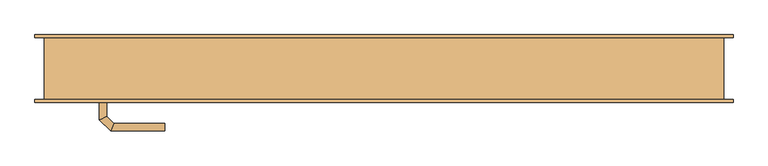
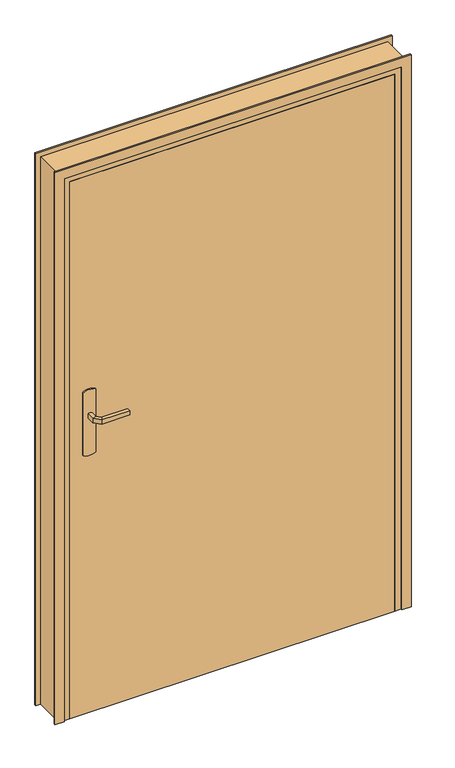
"""IFC4 building model written with IfcOpenShell, lengths in millimetres: door geometry, @_Int. Simple : @_PP (1.03m x 1.8m)."""

from ifc_helpers import new_model, si_unit, point, frame, frame_2d, origin, origin_with_axes, place, context, project, spatial, polyline, circle_curve, ellipse_curve, trimmed, segment, composite_curve, outline, extrude, faceted_brep, source, transform, mapped, element, save
from ifc_brep_helpers import plane_surface, cylinder_surface, advanced_brep


def door_373ab6a3(model_context):
    return source(origin(), model_context, "Body", "SolidModel", [
        extrude(outline(composite_curve([segment(trimmed(circle_curve(frame_2d((904.6410162, -490.0)), 40.0), [point((870.0, -510.0))], [point((870.0, -470.0))], False, "CARTESIAN"), True, "CONTINUOUS"), segment(polyline([(870.0, -470.0), (1080.0, -470.0)]), True, "CONTINUOUS"), segment(trimmed(circle_curve(frame_2d((1045.3589838, -490.0)), 40.0), [point((1080.0, -470.0))], [point((1080.0, -510.0))], False, "CARTESIAN"), True, "CONTINUOUS"), segment(polyline([(1080.0, -510.0), (870.0, -510.0)]), True, "CONTINUOUS")], self_intersect=False)), frame((0.0, -55.0, 0.0), z_axis=(0.0, 1.0, 0.0), x_axis=(0.0, 0.0, 1.0)), (0.0, 0.0, 1.0), 5.0),
        extrude(outline(composite_curve([segment(trimmed(circle_curve(frame_2d((1045.3589838, -490.0)), 40.0), [point((1080.0, -470.0))], [point((1080.0, -510.0))], False, "CARTESIAN"), True, "CONTINUOUS"), segment(polyline([(1080.0, -510.0), (870.0, -510.0)]), True, "CONTINUOUS"), segment(trimmed(circle_curve(frame_2d((904.6410162, -490.0)), 40.0), [point((870.0, -510.0))], [point((870.0, -470.0))], False, "CARTESIAN"), True, "CONTINUOUS"), segment(polyline([(870.0, -470.0), (1080.0, -470.0)]), True, "CONTINUOUS")], self_intersect=False)), frame((0.0, -10.0, 0.0), z_axis=(0.0, 1.0, 0.0), x_axis=(0.0, 0.0, 1.0)), (0.0, 0.0, 1.0), 5.0),
        advanced_brep(
        [(-496.0, -55.0, 1007.0), (-484.0, -55.0, 1007.0), (-484.0, -55.0, 993.0), (-496.0, -55.0, 993.0), (-496.0, -82.6509507, 1007.0), (-484.0, -77.680388, 1007.0), (-484.0, -77.680388, 993.0), (-496.0, -82.6509507, 993.0), (-477.62279, -101.0281607, 1007.0), (-472.6522273, -89.0281607, 1007.0), (-472.6522273, -89.0281607, 993.0), (-477.62279, -101.0281607, 993.0), (-389.9813594, -101.0281607, 1007.0), (-389.9813594, -101.0281607, 993.0), (-389.9813594, -89.0281607, 993.0), (-389.9813594, -89.0281607, 1007.0)],
        [
            (0, 1, circle_curve(frame((-490.0, -55.0, 986.9542278), z_axis=(0.0, 1.0, 0.0), x_axis=(1.0, 0.0, 0.0)), 20.9244589)),
            (1, 2),
            (2, 3, circle_curve(frame((-490.0, -55.0, 1013.0457722), z_axis=(0.0, 1.0, 0.0), x_axis=(1.0, 0.0, 0.0)), 20.9244589)),
            (3, 0),
            (0, 4),
            (4, 5, ellipse_curve(frame((-490.0, -80.1656693, 986.9542278), z_axis=(-0.3826834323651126, 0.9238795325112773, 0.0), x_axis=(0.9238795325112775, 0.38268343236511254, 0.0)), 22.6484711, 20.9244589)),
            (5, 1),
            (5, 6),
            (6, 2),
            (6, 7, ellipse_curve(frame((-490.0, -80.1656693, 1013.0457722), z_axis=(-0.3826834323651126, 0.9238795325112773, 0.0), x_axis=(0.9238795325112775, 0.38268343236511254, 0.0)), 22.6484711, 20.9244589)),
            (7, 3),
            (7, 4),
            (4, 8),
            (8, 9, ellipse_curve(frame((-475.1375086, -95.0281607, 986.9542278), z_axis=(-0.9238795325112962, 0.38268343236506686, 0.0), x_axis=(0.3826834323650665, 0.9238795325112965, 0.0)), 22.6484711, 20.9244589)),
            (9, 5),
            (9, 10),
            (10, 6),
            (10, 11, ellipse_curve(frame((-475.1375086, -95.0281607, 1013.0457722), z_axis=(-0.9238795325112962, 0.38268343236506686, 0.0), x_axis=(0.3826834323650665, 0.9238795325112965, 0.0)), 22.6484711, 20.9244589)),
            (11, 7),
            (11, 8),
            (12, 13),
            (13, 14, circle_curve(frame((-389.9813594, -95.0281607, 1013.0457722), z_axis=(1.0, 0.0, 0.0), x_axis=(0.0, 1.0, 0.0)), 20.9244589)),
            (14, 15),
            (15, 12, circle_curve(frame((-389.9813594, -95.0281607, 986.9542278), z_axis=(1.0, 0.0, 0.0), x_axis=(0.0, 1.0, 0.0)), 20.9244589)),
            (8, 12),
            (15, 9),
            (14, 10),
            (13, 11),
        ],
        [
            plane_surface(frame((-499.2195445, -55.0, 1000.0), z_axis=(0.0, 1.0, 0.0), x_axis=(0.0, 0.0, -1.0))),
            cylinder_surface(frame((-490.0, -55.0, 986.9542278), z_axis=(0.0, 1.0, 0.0), x_axis=(1.0, 0.0, 0.0)), 20.9244589),
            plane_surface(frame((-484.0, -55.0, 1007.0), z_axis=(1.0, 0.0, 0.0), x_axis=(0.0, -1.0, 0.0))),
            cylinder_surface(frame((-490.0, -55.0, 1013.0457722), z_axis=(0.0, 1.0, 0.0), x_axis=(1.0, 0.0, 0.0)), 20.9244589),
            plane_surface(frame((-496.0, -55.0, 993.0), z_axis=(-1.0, 0.0, 0.0), x_axis=(0.0, -1.0, 0.0))),
            cylinder_surface(frame((-490.0, -80.1656693, 986.9542278), z_axis=(-0.7071067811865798, 0.7071067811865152, 0.0), x_axis=(0.7071067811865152, 0.7071067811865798, 0.0)), 20.9244589),
            plane_surface(frame((-484.0, -77.680388, 1007.0), z_axis=(0.7071067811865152, 0.7071067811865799, 0.0), x_axis=(0.7071067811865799, -0.7071067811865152, 0.0))),
            cylinder_surface(frame((-490.0, -80.1656693, 1013.0457722), z_axis=(-0.7071067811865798, 0.7071067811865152, 0.0), x_axis=(0.7071067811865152, 0.7071067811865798, 0.0)), 20.9244589),
            plane_surface(frame((-496.0, -82.6509507, 993.0), z_axis=(-0.7071067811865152, -0.7071067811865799, 0.0), x_axis=(0.7071067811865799, -0.7071067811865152, 0.0))),
            plane_surface(frame((-389.9813594, -95.0281607, 990.7804555), z_axis=(1.0, 0.0, 0.0), x_axis=(0.0, 1.0, 0.0))),
            cylinder_surface(frame((-475.1375086, -95.0281607, 986.9542278), z_axis=(-1.0, 0.0, 0.0), x_axis=(0.0, 1.0, 0.0)), 20.9244589),
            plane_surface(frame((-472.6522273, -89.0281607, 1007.0), z_axis=(0.0, 1.0, 0.0), x_axis=(1.0, 0.0, 0.0))),
            cylinder_surface(frame((-475.1375086, -95.0281607, 1013.0457722), z_axis=(-1.0, 0.0, 0.0), x_axis=(0.0, 1.0, 0.0)), 20.9244589),
            plane_surface(frame((-477.62279, -101.0281607, 993.0), z_axis=(0.0, -1.0, 0.0), x_axis=(1.0, 0.0, 0.0))),
        ],
        [
            (0, [[1, 2, 3, 4]]),
            (1, [[-1, 5, 6, 7]]),
            (2, [[-2, -7, 8, 9]]),
            (3, [[-3, -9, 10, 11]]),
            (4, [[-4, -11, 12, -5]]),
            (5, [[-6, 13, 14, 15]]),
            (6, [[-8, -15, 16, 17]]),
            (7, [[-10, -17, 18, 19]]),
            (8, [[-12, -19, 20, -13]]),
            (9, [[21, 22, 23, 24]]),
            (10, [[-14, 25, -24, 26]]),
            (11, [[-16, -26, -23, 27]]),
            (12, [[-18, -27, -22, 28]]),
            (13, [[-20, -28, -21, -25]]),
        ],
    ),
        advanced_brep(
        [(-484.0, -5.0, 993.0), (-484.0, -5.0, 1007.0), (-496.0, -5.0, 1007.0), (-496.0, -5.0, 993.0), (-484.0, 17.4852045, 993.0), (-484.0, 17.4852045, 1007.0), (-496.0, 22.4557673, 1007.0), (-496.0, 22.4557673, 993.0), (-472.5147186, 28.9704859, 993.0), (-472.5147186, 28.9704859, 1007.0), (-477.4852814, 40.9704859, 1007.0), (-477.4852814, 40.9704859, 993.0), (-389.9542163, 28.9704859, 993.0), (-389.9542163, 40.9704859, 993.0), (-389.9542163, 40.9704859, 1007.0), (-389.9542163, 28.9704859, 1007.0)],
        [
            (0, 1),
            (1, 2, circle_curve(frame((-490.0, -5.0, 986.9542278), z_axis=(0.0, -1.0, 0.0), x_axis=(-1.0, 0.0, 0.0)), 20.9244589)),
            (2, 3),
            (3, 0, circle_curve(frame((-490.0, -5.0, 1013.0457722), z_axis=(0.0, -1.0, 0.0), x_axis=(-1.0, 0.0, 0.0)), 20.9244589)),
            (0, 4),
            (4, 5),
            (5, 1),
            (5, 6, ellipse_curve(frame((-490.0, 19.9704859, 986.9542278), z_axis=(-0.3826834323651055, -0.9238795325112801, 0.0), x_axis=(0.9238795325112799, -0.3826834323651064, 0.0)), 22.6484711, 20.9244589)),
            (6, 2),
            (6, 7),
            (7, 3),
            (7, 4, ellipse_curve(frame((-490.0, 19.9704859, 1013.0457722), z_axis=(-0.3826834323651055, -0.9238795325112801, 0.0), x_axis=(0.9238795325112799, -0.3826834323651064, 0.0)), 22.6484711, 20.9244589)),
            (4, 8),
            (8, 9),
            (9, 5),
            (9, 10, ellipse_curve(frame((-475.0, 34.9704859, 986.9542278), z_axis=(-0.9238795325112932, -0.382683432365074, 0.0), x_axis=(0.3826834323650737, -0.9238795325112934, 0.0)), 22.6484711, 20.9244589)),
            (10, 6),
            (10, 11),
            (11, 7),
            (11, 8, ellipse_curve(frame((-475.0, 34.9704859, 1013.0457722), z_axis=(-0.9238795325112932, -0.382683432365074, 0.0), x_axis=(0.3826834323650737, -0.9238795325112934, 0.0)), 22.6484711, 20.9244589)),
            (12, 13, circle_curve(frame((-389.9542163, 34.9704859, 1013.0457722), z_axis=(1.0, 0.0, 0.0), x_axis=(0.0, 1.0, 0.0)), 20.9244589)),
            (13, 14),
            (14, 15, circle_curve(frame((-389.9542163, 34.9704859, 986.9542278), z_axis=(1.0, 0.0, 0.0), x_axis=(0.0, 1.0, 0.0)), 20.9244589)),
            (15, 12),
            (8, 12),
            (15, 9),
            (14, 10),
            (13, 11),
        ],
        [
            plane_surface(frame((-499.2195445, -5.0, 1000.0), z_axis=(0.0, -1.0, 0.0), x_axis=(0.0, 0.0, 1.0))),
            plane_surface(frame((-484.0, -5.0, 993.0), z_axis=(1.0, 0.0, 0.0), x_axis=(0.0, 1.0, 0.0))),
            cylinder_surface(frame((-490.0, -5.0, 986.9542278), z_axis=(0.0, -1.0, 0.0), x_axis=(-1.0, 0.0, 0.0)), 20.9244589),
            plane_surface(frame((-496.0, -5.0, 1007.0), z_axis=(-1.0, 0.0, 0.0), x_axis=(0.0, 1.0, 0.0))),
            cylinder_surface(frame((-490.0, -5.0, 1013.0457722), z_axis=(0.0, -1.0, 0.0), x_axis=(-1.0, 0.0, 0.0)), 20.9244589),
            plane_surface(frame((-484.0, 17.4852045, 993.0), z_axis=(0.7071067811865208, -0.7071067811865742, 0.0), x_axis=(0.7071067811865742, 0.7071067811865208, 0.0))),
            cylinder_surface(frame((-490.0, 19.9704859, 986.9542278), z_axis=(-0.7071067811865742, -0.7071067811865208, 0.0), x_axis=(-0.7071067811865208, 0.7071067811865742, 0.0)), 20.9244589),
            plane_surface(frame((-496.0, 22.4557673, 1007.0), z_axis=(-0.7071067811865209, 0.7071067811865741, 0.0), x_axis=(0.7071067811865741, 0.7071067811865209, 0.0))),
            cylinder_surface(frame((-490.0, 19.9704859, 1013.0457722), z_axis=(-0.7071067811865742, -0.7071067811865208, 0.0), x_axis=(-0.7071067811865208, 0.7071067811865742, 0.0)), 20.9244589),
            plane_surface(frame((-389.9542163, 34.9704859, 990.7804555), z_axis=(1.0, 0.0, 0.0), x_axis=(0.0, 1.0, 0.0))),
            plane_surface(frame((-472.5147186, 28.9704859, 993.0), z_axis=(0.0, -1.0, 0.0), x_axis=(1.0, 0.0, 0.0))),
            cylinder_surface(frame((-475.0, 34.9704859, 986.9542278), z_axis=(-1.0, 0.0, 0.0), x_axis=(0.0, 1.0, 0.0)), 20.9244589),
            plane_surface(frame((-477.4852814, 40.9704859, 1007.0), z_axis=(0.0, 1.0, 0.0), x_axis=(1.0, 0.0, 0.0))),
            cylinder_surface(frame((-475.0, 34.9704859, 1013.0457722), z_axis=(-1.0, 0.0, 0.0), x_axis=(0.0, 1.0, 0.0)), 20.9244589),
        ],
        [
            (0, [[1, 2, 3, 4]]),
            (1, [[-1, 5, 6, 7]]),
            (2, [[-2, -7, 8, 9]]),
            (3, [[-3, -9, 10, 11]]),
            (4, [[-4, -11, 12, -5]]),
            (5, [[-6, 13, 14, 15]]),
            (6, [[-8, -15, 16, 17]]),
            (7, [[-10, -17, 18, 19]]),
            (8, [[-12, -19, 20, -13]]),
            (9, [[21, 22, 23, 24]]),
            (10, [[-14, 25, -24, 26]]),
            (11, [[-16, -26, -23, 27]]),
            (12, [[-18, -27, -22, 28]]),
            (13, [[-20, -28, -21, -25]]),
        ],
    ),
        extrude(outline(polyline([(-550.0, -10.0), (480.0, -10.0), (480.0, -50.0), (-550.0, -50.0), (-550.0, -10.0)])), origin_with_axes(), (0.0, 0.0, 1.0), 1800.0),
        faceted_brep([(-585.0, -50.0, 0.0), (-585.0, 50.0, 0.0), (-535.0, 50.0, 0.0), (-535.0, -10.0, 0.0), (-550.0, -10.0, 0.0), (-550.0, -50.0, 0.0), (-585.0, -50.0, 1835.0), (-585.0, 50.0, 1835.0), (515.0, 50.0, 1835.0), (515.0, 50.0, 0.0), (465.0, 50.0, 0.0), (465.0, 50.0, 1785.0), (-535.0, 50.0, 1785.0), (-535.0, -10.0, 1785.0), (465.0, -10.0, 1785.0), (465.0, -10.0, 0.0), (480.0, -10.0, 0.0), (480.0, -10.0, 1800.0), (-550.0, -10.0, 1800.0), (-550.0, -50.0, 1800.0), (480.0, -50.0, 1800.0), (480.0, -50.0, 0.0), (515.0, -50.0, 0.0), (515.0, -50.0, 1835.0)], [[[0, 1, 2, 3, 4, 5]], [[1, 0, 6, 7]], [[2, 1, 7, 8, 9, 10, 11, 12]], [[3, 2, 12, 13]], [[4, 3, 13, 14, 15, 16, 17, 18]], [[5, 4, 18, 19]], [[0, 5, 19, 20, 21, 22, 23, 6]], [[8, 23, 22, 9]], [[22, 21, 16, 15, 10, 9]], [[14, 11, 10, 15]], [[20, 17, 16, 21]], [[7, 6, 23, 8]], [[13, 12, 11, 14]], [[19, 18, 17, 20]]]),
        extrude(outline(polyline([(0.0, -600.0), (0.0, -570.0), (1820.0, -570.0), (1820.0, 500.0), (0.0, 500.0), (0.0, 530.0), (1850.0, 530.0), (1850.0, -600.0), (0.0, -600.0)])), frame((0.0, -55.0, 0.0), z_axis=(0.0, 1.0, 0.0), x_axis=(0.0, 0.0, 1.0)), (0.0, 0.0, 1.0), 5.0),
        extrude(outline(polyline([(0.0, -600.0), (0.0, -570.0), (1820.0, -570.0), (1820.0, 500.0), (0.0, 500.0), (0.0, 530.0), (1850.0, 530.0), (1850.0, -600.0), (0.0, -600.0)])), frame((0.0, 50.0, 0.0), z_axis=(0.0, 1.0, 0.0), x_axis=(0.0, 0.0, 1.0)), (0.0, 0.0, 1.0), 5.0),
    ])


if __name__ == "__main__":
    model = new_model("IFC4")
    model_context = context("Model", 3, world=origin())
    ifc_project = project(units=[si_unit("LENGTHUNIT", "METRE", prefix="MILLI")], contexts=[model_context])
    site = spatial("IfcSite", under=ifc_project)
    building = spatial("IfcBuilding", under=site)
    placement = place(None, origin())
    door_shape = door_373ab6a3(model_context)
    element("IfcDoor", 1, ObjectType="@_Int. Simple : @_PP (1.03m x 1.8m)", at=placement, inside=building, context=model_context, shape_type="MappedRepresentation", body=[
        mapped(door_shape, transform((0.0, 0.0, 0.0), x_axis=(1.0, 0.0, 0.0), y_axis=(0.0, 1.0, 0.0), z_axis=(0.0, 0.0, 1.0))),
    ])
    save(model, "model.ifc")
